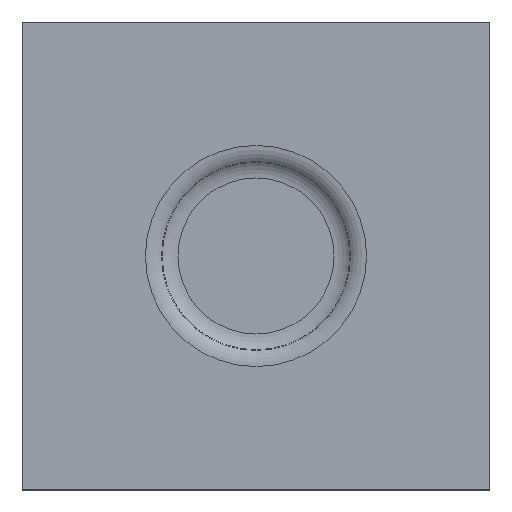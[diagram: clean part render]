
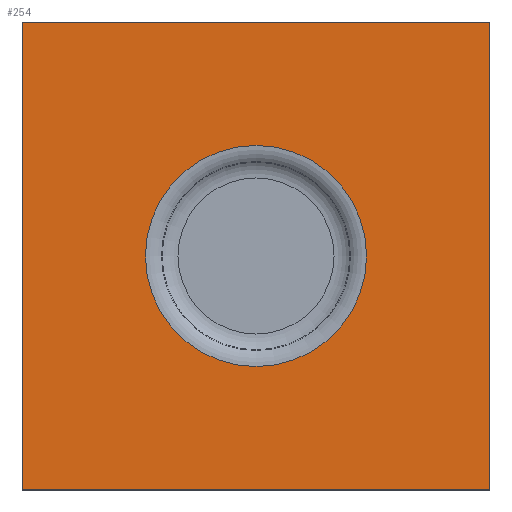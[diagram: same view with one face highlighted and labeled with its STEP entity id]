
A CAD part, top view. The second image highlights one B-rep face of the part: STEP entity #254.
In plain terms, the highlighted planar face has unit normal (0, 0, 1).
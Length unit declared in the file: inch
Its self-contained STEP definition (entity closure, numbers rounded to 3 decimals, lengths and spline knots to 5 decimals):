
#187=CARTESIAN_POINT('',(-12.13976,24.65748,5.20472));
#188=VERTEX_POINT('',#187);
#196=CARTESIAN_POINT('',(-12.13976,24.30315,5.20472));
#197=DIRECTION('',(0.,0.,1.));
#198=DIRECTION('',(0.,1.,0.));
#199=AXIS2_PLACEMENT_3D('',#196,#197,#198);
#200=CIRCLE('',#199,0.35433);
#201=EDGE_CURVE('',#188,#188,#200,.T.);
#212=CARTESIAN_POINT('',(-12.88976,23.55315,5.20472));
#213=VERTEX_POINT('',#212);
#214=CARTESIAN_POINT('',(-11.38976,23.55315,5.20472));
#215=VERTEX_POINT('',#214);
#216=CARTESIAN_POINT('',(95.68553,23.55315,5.20472));
#217=DIRECTION('',(1.,0.,0.));
#218=VECTOR('',#217,1.);
#219=LINE('',#216,#218);
#220=EDGE_CURVE('',#213,#215,#219,.T.);
#221=ORIENTED_EDGE('',*,*,#220,.T.);
#222=CARTESIAN_POINT('',(-11.38976,25.05315,5.20472));
#223=VERTEX_POINT('',#222);
#224=CARTESIAN_POINT('',(-11.38976,-20.18906,5.20472));
#225=DIRECTION('',(0.,1.,0.));
#226=VECTOR('',#225,1.);
#227=LINE('',#224,#226);
#228=EDGE_CURVE('',#215,#223,#227,.T.);
#229=ORIENTED_EDGE('',*,*,#228,.T.);
#230=CARTESIAN_POINT('',(-12.88976,25.05315,5.20472));
#231=VERTEX_POINT('',#230);
#232=CARTESIAN_POINT('',(80.85799,25.05315,5.20472));
#233=DIRECTION('',(-1.,0.,0.));
#234=VECTOR('',#233,1.);
#235=LINE('',#232,#234);
#236=EDGE_CURVE('',#223,#231,#235,.T.);
#237=ORIENTED_EDGE('',*,*,#236,.T.);
#238=CARTESIAN_POINT('',(-12.88976,-20.41099,5.20472));
#239=DIRECTION('',(0.,-1.,0.));
#240=VECTOR('',#239,1.);
#241=LINE('',#238,#240);
#242=EDGE_CURVE('',#231,#213,#241,.T.);
#243=ORIENTED_EDGE('',*,*,#242,.T.);
#244=EDGE_LOOP('',(#221,#229,#237,#243));
#245=FACE_OUTER_BOUND('',#244,.T.);
#246=ORIENTED_EDGE('',*,*,#201,.F.);
#247=EDGE_LOOP('',(#246));
#248=FACE_BOUND('',#247,.T.);
#249=CARTESIAN_POINT('',(-8.12402,18.67793,5.20472));
#250=DIRECTION('',(0.,0.,1.));
#251=DIRECTION('',(0.,1.,0.));
#252=AXIS2_PLACEMENT_3D('',#249,#250,#251);
#253=PLANE('',#252);
#254=ADVANCED_FACE('',(#245,#248),#253,.T.);
